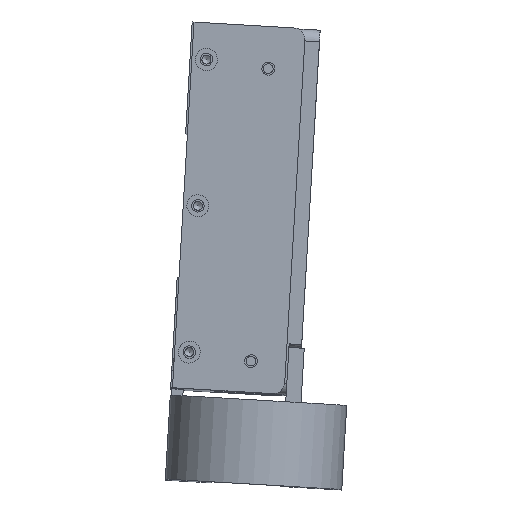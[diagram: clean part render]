
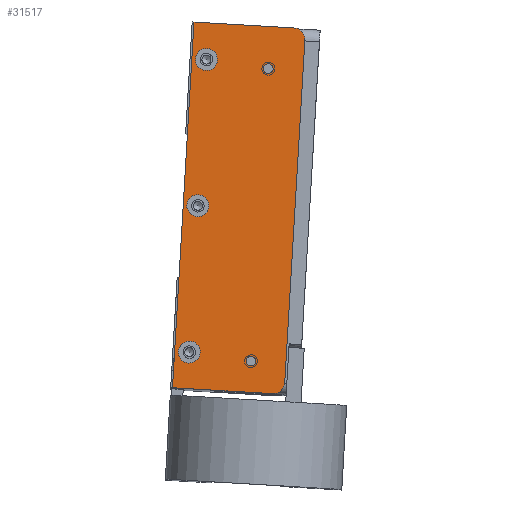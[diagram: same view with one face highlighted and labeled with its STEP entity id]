
A CAD part, top view. The second image highlights one B-rep face of the part: STEP entity #31517.
In plain terms, the highlighted planar face has unit normal (0, 0, 1) as drawn and (0, -1, 0) by its records, which use the part's own axes.
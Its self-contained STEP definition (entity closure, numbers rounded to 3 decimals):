
#929=PLANE($,#34290);
#1988=FACE_BOUND($,#5451,.T.);
#1989=FACE_BOUND($,#5452,.T.);
#1990=FACE_BOUND($,#5453,.T.);
#1991=FACE_BOUND($,#5454,.T.);
#1992=FACE_BOUND($,#5455,.T.);
#1993=FACE_BOUND($,#5456,.T.);
#5451=EDGE_LOOP($,(#25376));
#5452=EDGE_LOOP($,(#25377));
#5453=EDGE_LOOP($,(#25378));
#5454=EDGE_LOOP($,(#25379));
#5455=EDGE_LOOP($,(#25380));
#5456=EDGE_LOOP($,(#25381,#25382,#25383,#25384,#25385,#25386));
#7833=LINE($,#50466,#10640);
#7836=LINE($,#50482,#10643);
#7837=LINE($,#50484,#10644);
#7838=LINE($,#50486,#10645);
#10640=VECTOR($,#40467,93.65);
#10643=VECTOR($,#40482,27.325);
#10644=VECTOR($,#40483,100.);
#10645=VECTOR($,#40484,27.325);
#13303=CIRCLE($,#34287,3.175);
#13305=CIRCLE($,#34291,3.);
#13306=CIRCLE($,#34292,3.);
#13307=CIRCLE($,#34293,3.);
#13308=CIRCLE($,#34294,1.321);
#13309=CIRCLE($,#34295,1.321);
#13310=CIRCLE($,#34296,3.175);
#15220=VERTEX_POINT($,#50456);
#15221=VERTEX_POINT($,#50457);
#15224=VERTEX_POINT($,#50465);
#15226=VERTEX_POINT($,#50471);
#15227=VERTEX_POINT($,#50473);
#15228=VERTEX_POINT($,#50475);
#15229=VERTEX_POINT($,#50477);
#15230=VERTEX_POINT($,#50479);
#15231=VERTEX_POINT($,#50481);
#15232=VERTEX_POINT($,#50483);
#15233=VERTEX_POINT($,#50485);
#18911=EDGE_CURVE($,#15220,#15221,#13303,.T.);
#18915=EDGE_CURVE($,#15221,#15224,#7833,.T.);
#18918=EDGE_CURVE($,#15226,#15226,#13305,.T.);
#18919=EDGE_CURVE($,#15227,#15227,#13306,.T.);
#18920=EDGE_CURVE($,#15228,#15228,#13307,.T.);
#18921=EDGE_CURVE($,#15229,#15229,#13308,.T.);
#18922=EDGE_CURVE($,#15230,#15230,#13309,.T.);
#18923=EDGE_CURVE($,#15220,#15231,#7836,.T.);
#18924=EDGE_CURVE($,#15231,#15232,#7837,.T.);
#18925=EDGE_CURVE($,#15232,#15233,#7838,.T.);
#18926=EDGE_CURVE($,#15224,#15233,#13310,.T.);
#25376=ORIENTED_EDGE($,*,*,#18918,.T.);
#25377=ORIENTED_EDGE($,*,*,#18919,.T.);
#25378=ORIENTED_EDGE($,*,*,#18920,.T.);
#25379=ORIENTED_EDGE($,*,*,#18921,.T.);
#25380=ORIENTED_EDGE($,*,*,#18922,.T.);
#25381=ORIENTED_EDGE($,*,*,#18911,.F.);
#25382=ORIENTED_EDGE($,*,*,#18923,.T.);
#25383=ORIENTED_EDGE($,*,*,#18924,.T.);
#25384=ORIENTED_EDGE($,*,*,#18925,.T.);
#25385=ORIENTED_EDGE($,*,*,#18926,.F.);
#25386=ORIENTED_EDGE($,*,*,#18915,.F.);
#31517=ADVANCED_FACE($,(#1988,#1989,#1990,#1991,#1992,#1993),#929,.T.);
#34287=AXIS2_PLACEMENT_3D($,#50458,#40459,#40460);
#34290=AXIS2_PLACEMENT_3D($,#50470,#40470,#40471);
#34291=AXIS2_PLACEMENT_3D($,#50472,#40472,#40473);
#34292=AXIS2_PLACEMENT_3D($,#50474,#40474,#40475);
#34293=AXIS2_PLACEMENT_3D($,#50476,#40476,#40477);
#34294=AXIS2_PLACEMENT_3D($,#50478,#40478,#40479);
#34295=AXIS2_PLACEMENT_3D($,#50480,#40480,#40481);
#34296=AXIS2_PLACEMENT_3D($,#50487,#40485,#40486);
#40459=DIRECTION('center_axis',(0.,1.,0.));
#40460=DIRECTION('ref_axis',(0.707,0.,0.707));
#40467=DIRECTION($,(0.,0.,-1.));
#40470=DIRECTION('center_axis',(0.,-1.,0.));
#40471=DIRECTION('ref_axis',(0.,0.,-1.));
#40472=DIRECTION('center_axis',(0.,1.,0.));
#40473=DIRECTION('ref_axis',(1.,0.,0.));
#40474=DIRECTION('center_axis',(0.,1.,0.));
#40475=DIRECTION('ref_axis',(1.,0.,0.));
#40476=DIRECTION('center_axis',(0.,1.,0.));
#40477=DIRECTION('ref_axis',(1.,0.,0.));
#40478=DIRECTION('center_axis',(0.,1.,0.));
#40479=DIRECTION('ref_axis',(1.,0.,0.));
#40480=DIRECTION('center_axis',(0.,1.,0.));
#40481=DIRECTION('ref_axis',(1.,0.,0.));
#40482=DIRECTION($,(-1.,0.,0.));
#40483=DIRECTION($,(0.,0.,-1.));
#40484=DIRECTION($,(1.,0.,0.));
#40485=DIRECTION('center_axis',(0.,1.,0.));
#40486=DIRECTION('ref_axis',(0.707,0.,-0.707));
#50456=CARTESIAN_POINT('',(12.075,-2.5,50.));
#50457=CARTESIAN_POINT('',(15.25,-2.5,46.825));
#50458=CARTESIAN_POINT('Origin',(12.075,-2.5,46.825));
#50465=CARTESIAN_POINT('',(15.25,-2.5,-46.825));
#50466=CARTESIAN_POINT($,(15.25,-2.5,0.));
#50470=CARTESIAN_POINT('Origin',(15.25,-2.5,0.));
#50471=CARTESIAN_POINT('',(-8.25,-2.5,0.));
#50472=CARTESIAN_POINT('Origin',(-11.25,-2.5,0.));
#50473=CARTESIAN_POINT('',(-8.25,-2.5,40.));
#50474=CARTESIAN_POINT('Origin',(-11.25,-2.5,40.));
#50475=CARTESIAN_POINT('',(-8.25,-2.5,-40.));
#50476=CARTESIAN_POINT('Origin',(-11.25,-2.5,-40.));
#50477=CARTESIAN_POINT('',(7.071,-2.5,38.5));
#50478=CARTESIAN_POINT('Origin',(5.75,-2.5,38.5));
#50479=CARTESIAN_POINT('',(7.037,-2.5,-41.5));
#50480=CARTESIAN_POINT('Origin',(5.716,-2.5,-41.5));
#50481=CARTESIAN_POINT('',(-15.25,-2.5,50.));
#50482=CARTESIAN_POINT($,(15.25,-2.5,50.));
#50483=CARTESIAN_POINT('',(-15.25,-2.5,-50.));
#50484=CARTESIAN_POINT($,(-15.25,-2.5,0.));
#50485=CARTESIAN_POINT('',(12.075,-2.5,-50.));
#50486=CARTESIAN_POINT($,(15.25,-2.5,-50.));
#50487=CARTESIAN_POINT('Origin',(12.075,-2.5,-46.825));
